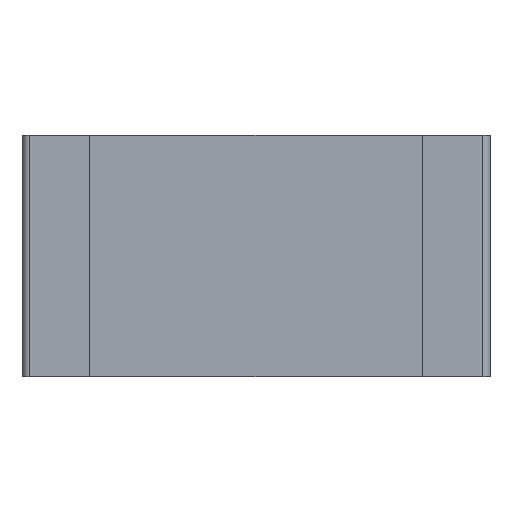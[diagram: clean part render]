
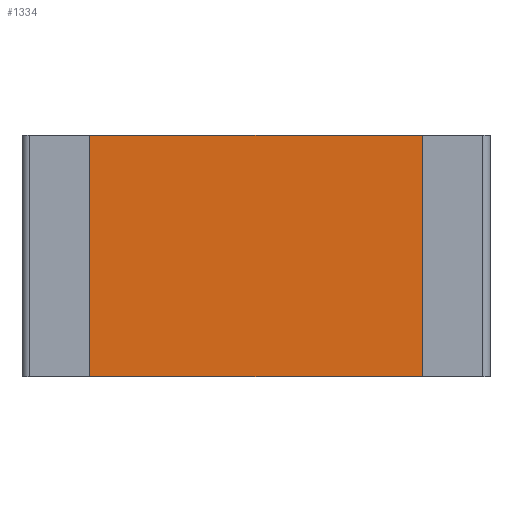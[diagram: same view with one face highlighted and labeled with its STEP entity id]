
A CAD part, front view. The second image highlights one B-rep face of the part: STEP entity #1334.
In plain terms, the highlighted planar face has unit normal (0, -1, 0).
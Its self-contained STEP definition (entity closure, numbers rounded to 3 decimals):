
#1172 = CARTESIAN_POINT ( 'NONE',  ( 1.1, 0., 0.8 ) ) ;
#1173 = VERTEX_POINT ( 'NONE', #1172 ) ;
#1174 = CARTESIAN_POINT ( 'NONE',  ( 1.1, 0., -0.8 ) ) ;
#1175 = VERTEX_POINT ( 'NONE', #1174 ) ;
#1176 = CARTESIAN_POINT ( 'NONE',  ( 1.1, 0., 0.8 ) ) ;
#1177 = DIRECTION ( 'NONE',  ( 0., 0., -1. ) ) ;
#1178 = VECTOR ( 'NONE', #1177, 1000. ) ;
#1179 = LINE ( 'NONE', #1176, #1178 ) ;
#1180 = EDGE_CURVE ( 'NONE', #1173, #1175, #1179, .T. ) ;
#1215 = CARTESIAN_POINT ( 'NONE',  ( -1.1, 0., -0.8 ) ) ;
#1216 = VERTEX_POINT ( 'NONE', #1215 ) ;
#1217 = CARTESIAN_POINT ( 'NONE',  ( -1.1, 0., -0.8 ) ) ;
#1218 = DIRECTION ( 'NONE',  ( -1., 0., 0. ) ) ;
#1219 = VECTOR ( 'NONE', #1218, 1000. ) ;
#1220 = LINE ( 'NONE', #1217, #1219 ) ;
#1221 = EDGE_CURVE ( 'NONE', #1175, #1216, #1220, .T. ) ;
#1249 = CARTESIAN_POINT ( 'NONE',  ( -1.1, 0., 0.8 ) ) ;
#1250 = VERTEX_POINT ( 'NONE', #1249 ) ;
#1251 = CARTESIAN_POINT ( 'NONE',  ( -1.1, 0., 0.8 ) ) ;
#1252 = DIRECTION ( 'NONE',  ( 0., 0., 1. ) ) ;
#1253 = VECTOR ( 'NONE', #1252, 1000. ) ;
#1254 = LINE ( 'NONE', #1251, #1253 ) ;
#1255 = EDGE_CURVE ( 'NONE', #1216, #1250, #1254, .T. ) ;
#1283 = CARTESIAN_POINT ( 'NONE',  ( -1.1, 0., 0.8 ) ) ;
#1284 = DIRECTION ( 'NONE',  ( 1., 0., 0. ) ) ;
#1285 = VECTOR ( 'NONE', #1284, 1000. ) ;
#1286 = LINE ( 'NONE', #1283, #1285 ) ;
#1287 = EDGE_CURVE ( 'NONE', #1250, #1173, #1286, .T. ) ;
#1323 = ORIENTED_EDGE ( 'NONE', *, *, #1180, .F. ) ;
#1324 = ORIENTED_EDGE ( 'NONE', *, *, #1287, .F. ) ;
#1325 = ORIENTED_EDGE ( 'NONE', *, *, #1255, .F. ) ;
#1326 = ORIENTED_EDGE ( 'NONE', *, *, #1221, .F. ) ;
#1327 = EDGE_LOOP ( 'NONE', ( #1323, #1324, #1325, #1326 ) ) ;
#1328 = FACE_OUTER_BOUND ( 'NONE', #1327, .T. ) ;
#1329 = CARTESIAN_POINT ( 'NONE',  ( 0., 0., 0. ) ) ;
#1330 = DIRECTION ( 'NONE',  ( 0., -1., 0. ) ) ;
#1331 = DIRECTION ( 'NONE',  ( 0., 0., -1. ) ) ;
#1332 = AXIS2_PLACEMENT_3D ( 'NONE', #1329, #1330, #1331 ) ;
#1333 = PLANE ( 'NONE', #1332 ) ;
#1334 = ADVANCED_FACE ( 'NONE', ( #1328 ), #1333, .T. ) ;
